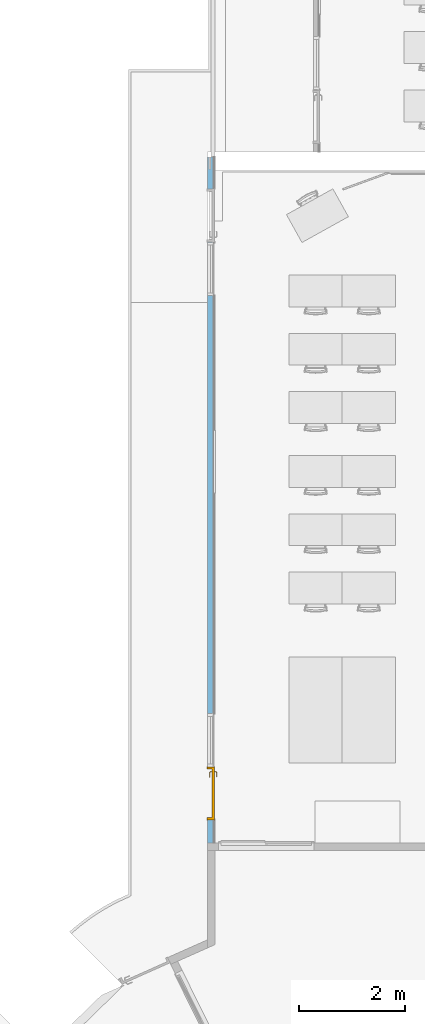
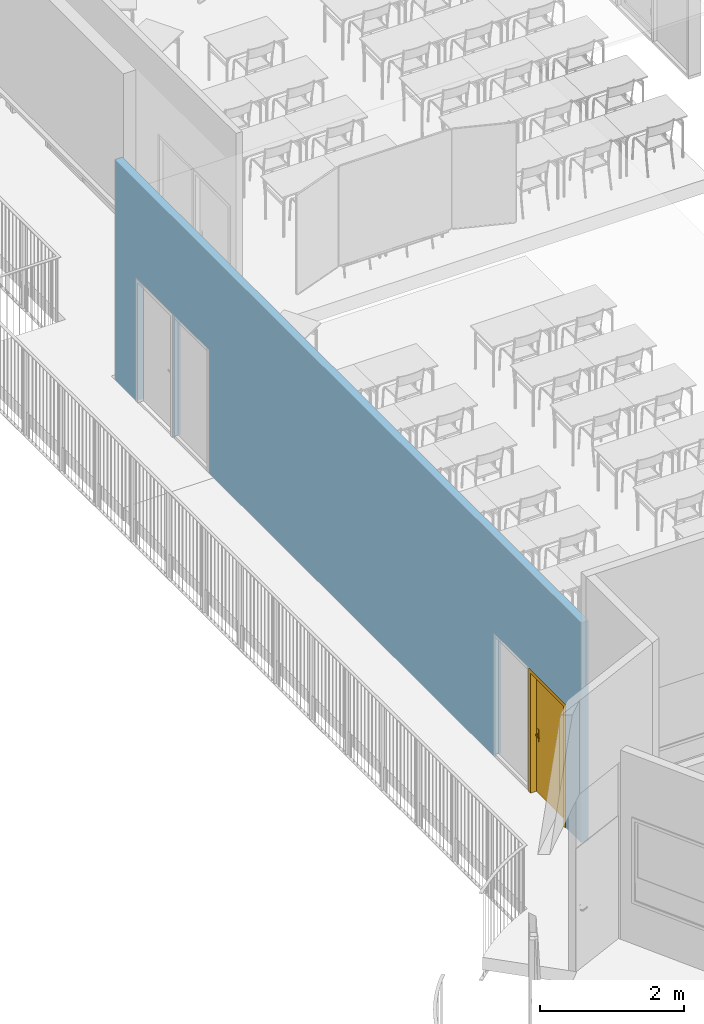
# One storey, part 38 of 44: 1 door, 4 openings, plus 1 element that does not belong to this part.
"""IFC2X3 building model written with IfcOpenShell, lengths in centimetres."""

from ifc_helpers import new_model, entity, si_unit, converted_unit, derived_unit, direction, frame, frame_2d, origin, place, context, subcontext, project, spatial, rectangle, extrude, faceted_brep, source, transform, mapped, material, material_list, layer, layer_set, layer_usage, type_object, type_shapes, element, fill, save


model = new_model("IFC2X3")

# Units and contexts
model_context = context("Model", 3, precision=0.001, world=origin(), true_north=direction((6.12303176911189e-17, 1.0)))
body_context = subcontext(model_context, "Body", "Model", "MODEL_VIEW")
ifc_project = project(units=[si_unit("LENGTHUNIT", "METRE", prefix="CENTI"), si_unit("AREAUNIT", "SQUARE_METRE"), si_unit("VOLUMEUNIT", "CUBIC_METRE"), converted_unit("PLANEANGLEUNIT", "DEGREE", entity("IfcRatioMeasure", 0.0174532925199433), si_unit("PLANEANGLEUNIT", "RADIAN"), dimensions=[0, 0, 0, 0, 0, 0, 0]), si_unit("MASSUNIT", "GRAM", prefix="KILO"), si_unit("TIMEUNIT", "SECOND"), si_unit("FREQUENCYUNIT", "HERTZ"), si_unit("THERMODYNAMICTEMPERATUREUNIT", "DEGREE_CELSIUS"), derived_unit("THERMALTRANSMITTANCEUNIT", [(si_unit("MASSUNIT", "GRAM", prefix="KILO"), 1), (si_unit("THERMODYNAMICTEMPERATUREUNIT", "KELVIN"), -1), (si_unit("TIMEUNIT", "SECOND"), -3)]), derived_unit("VOLUMETRICFLOWRATEUNIT", [(si_unit("LENGTHUNIT", "METRE"), 3), (si_unit("TIMEUNIT", "SECOND"), -1)]), si_unit("ELECTRICCURRENTUNIT", "AMPERE"), si_unit("ELECTRICVOLTAGEUNIT", "VOLT"), si_unit("POWERUNIT", "WATT"), si_unit("FORCEUNIT", "NEWTON", prefix="KILO"), si_unit("ILLUMINANCEUNIT", "LUX"), si_unit("LUMINOUSFLUXUNIT", "LUMEN"), si_unit("LUMINOUSINTENSITYUNIT", "CANDELA"), derived_unit("USERDEFINED", [(si_unit("MASSUNIT", "GRAM", prefix="KILO"), -1), (si_unit("LENGTHUNIT", "METRE"), -2), (si_unit("TIMEUNIT", "SECOND"), 3), (si_unit("LUMINOUSFLUXUNIT", "LUMEN"), 1)]), derived_unit("LINEARVELOCITYUNIT", [(si_unit("LENGTHUNIT", "METRE"), 1), (si_unit("TIMEUNIT", "SECOND"), -1)]), si_unit("PRESSUREUNIT", "PASCAL"), derived_unit("USERDEFINED", [(si_unit("LENGTHUNIT", "METRE"), -2), (si_unit("MASSUNIT", "GRAM", prefix="KILO"), 1), (si_unit("TIMEUNIT", "SECOND"), -2)])], contexts=[model_context])

# Site, building, storey
site_placement = place(None, frame((8.62739174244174, -249.285249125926, 0.0)))
site = spatial("IfcSite", under=ifc_project, at=site_placement, Name="Default", CompositionType="ELEMENT")
building_placement = place(site_placement, origin())
building = spatial("IfcBuilding", under=site, at=building_placement, CompositionType="ELEMENT")
storey_placement = place(building_placement, frame((0.0, 0.0, 343.0)))
storey = spatial("IfcBuildingStorey", under=building, at=storey_placement, Name="R+1", CompositionType="ELEMENT", Elevation=343.0)

# Wall, openings, door
ifc_material_1 = material(Name="Plâtre")
ifc_layer = layer(ifc_material_1, 12.0)
ifc_layer_set = layer_set([ifc_layer], Name="Mur de base:PLA 12")
ifc_layer_usage = layer_usage(ifc_layer_set, "AXIS2", "NEGATIVE", 6.0)
wall_type = type_object("IfcWallType", Name="Mur de base:PLA 12", PredefinedType="STANDARD", material=ifc_layer_set)
wall_placement = place(storey_placement, frame((3025.98509457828, 2644.98020806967, 0.0), z_axis=(0.0, 0.0, 1.0), x_axis=(0.0, -1.0, 0.0)))
wall = element("IfcWallStandardCase", 1, at=wall_placement, inside=storey, type_object=wall_type, material=ifc_layer_usage, Name="Mur de base:PLA 12", ObjectType="Mur de base:PLA 12", context=body_context, shape_type="SweptSolid", body=[
    extrude(rectangle(XDim=1292.00039446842, YDim=11.9999999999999, at=frame_2d((646.000197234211, -8.43769498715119e-15), x_axis=(-1.0, 0.0))), origin(), (0.0, 0.0, 1.0), 372.0),
])
opening_1_placement = place(wall_placement, origin())
element("IfcOpeningElement", 2, at=opening_1_placement, cuts=wall, Name="Mur de base:PLA 12", ObjectType="Opening", context=body_context, shape_type="SweptSolid", body=[
    extrude(rectangle(XDim=208.499999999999, YDim=100.0, at=frame_2d((-2.16715534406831e-13, 0.0), x_axis=(0.0, 1.0))), frame((210.999706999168, -21.2400000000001, 104.25), z_axis=(0.0, 1.0, 0.0), x_axis=(-1.0, 0.0, 0.0)), (0.0, 0.0, 1.0), 42.4799999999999),
])
opening_2_placement = place(wall_placement, origin())
element("IfcOpeningElement", 3, at=opening_2_placement, cuts=wall, Name="Mur de base:PLA 12", ObjectType="Opening", context=body_context, shape_type="SweptSolid", body=[
    extrude(rectangle(XDim=208.499999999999, YDim=100.0, at=frame_2d((0.0, 0.0), x_axis=(0.0, 1.0))), frame((1098.68238229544, -21.2399999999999, 104.25), z_axis=(0.0, 1.0, 0.0), x_axis=(-1.0, 0.0, 0.0)), (0.0, 0.0, 1.0), 42.4799999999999),
])
opening_3_placement = place(wall_placement, frame((60.0, -6.0, 0.0)))
element("IfcOpeningElement", 4, at=opening_3_placement, cuts=wall, Name="Simple(R)_bois_mu:93 x 204 cm:1", ObjectType="Opening", context=body_context, shape_type="SweptSolid", body=[
    extrude(rectangle(XDim=207.499999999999, YDim=99.9999999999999, at=frame_2d((103.749999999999, 50.0), x_axis=(1.0, 0.0))), frame((0.0, 0.0, 0.0), z_axis=(0.0, 1.0, 0.0), x_axis=(0.0, 0.0, 1.0)), (0.0, 0.0, 1.0), 12.0),
])
opening_4_placement = place(wall_placement, frame((1148.68238229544, -6.0, 0.0)))
opening_4 = element("IfcOpeningElement", 5, at=opening_4_placement, cuts=wall, Name="Simple(R)_bois_mu:93 x 204 cm:1", ObjectType="Opening", context=body_context, shape_type="SweptSolid", body=[
    extrude(rectangle(XDim=207.499999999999, YDim=99.9999999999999, at=frame_2d((103.749999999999, 50.0), x_axis=(1.0, 0.0))), frame((0.0, 0.0, 0.0), z_axis=(0.0, 1.0, 0.0), x_axis=(0.0, 0.0, 1.0)), (0.0, 0.0, 1.0), 12.0),
])
ifc_material_2 = material(Name="Porte - Poignée")
ifc_material_3 = material(Name="Porte - Cadre")
ifc_material_4 = material(Name="Porte - Panneau")
ifc_material_list_1 = material_list([ifc_material_2, ifc_material_3, ifc_material_4])
ifc_material_list_2 = material_list([ifc_material_2, ifc_material_3, ifc_material_4])
door_style = type_object("IfcDoorStyle", Name="93 x 204 cm", ConstructionType="NOTDEFINED", OperationType="SINGLE_SWING_LEFT", ParameterTakesPrecedence=False, Sizeable=False, material=ifc_material_list_2)
shared_shape = source(origin(), body_context, "Body", "Brep", [
    faceted_brep([(92.2025298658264, 3.69999999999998, 100.778044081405), (91.7974701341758, 3.69999999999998, 100.778044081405), (91.3999999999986, 3.69999999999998, 100.699999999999), (91.4000000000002, 3.69999999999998, 99.3000000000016), (91.7974701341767, 3.69999999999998, 99.2219559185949), (92.2025298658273, 3.69999999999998, 99.2219559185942), (92.6000000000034, 3.69999999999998, 99.2999999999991), (92.600000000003, 3.69999999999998, 100.699999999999), (91.3999999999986, 5.94852045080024, 100.699999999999), (91.3999999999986, 5.94852045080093, 99.3000000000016), (91.7974701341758, 6.1131579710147, 100.778044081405), (92.2025298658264, 6.2809392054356, 100.778044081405), (90.5838906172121, 7.89957845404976, 100.778044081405), (90.4161093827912, 7.49451872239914, 100.778044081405), (82.0793122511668, 7.49451872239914, 100.778044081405), (81.911531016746, 7.89957845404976, 100.778044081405), (81.1451046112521, 7.13315204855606, 100.778044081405), (81.4315250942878, 6.84673156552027, 100.778044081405), (92.600000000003, 6.44557672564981, 100.699999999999), (92.6000000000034, 6.44557672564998, 99.2999999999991), (92.2025298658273, 6.28093920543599, 99.2219559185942), (91.7974701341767, 6.11315797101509, 99.2219559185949), (90.4161093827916, 7.49451872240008, 99.2219559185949), (90.5838906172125, 7.8995784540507, 99.2219559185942), (81.9115310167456, 7.8995784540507, 99.2219559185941), (82.0793122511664, 7.49451872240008, 99.2219559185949), (81.4315250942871, 6.84673156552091, 99.2219559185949), (81.1451046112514, 7.13315204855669, 99.2219559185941), (90.2514718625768, 7.09704858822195, 100.699999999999), (90.2514718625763, 7.09704858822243, 99.3000000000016), (90.7485281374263, 8.29704858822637, 100.699999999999), (90.7485281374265, 8.29704858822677, 99.2999999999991), (86.247710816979, 7.09704858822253, 100.699999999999), (82.2439497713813, 7.09704858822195, 100.699999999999), (82.2439497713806, 7.09704858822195, 99.3000000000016), (86.247710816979, 7.09704858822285, 99.3000000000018), (86.2477108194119, 7.71249275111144, 100.787811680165), (85.7399422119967, 8.29704858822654, 100.699999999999), (81.7468934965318, 8.29704858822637, 100.699999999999), (86.7554791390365, 8.29704858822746, 99.2999999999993), (81.7468934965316, 8.29704858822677, 99.2999999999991), (86.2477107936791, 7.71249274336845, 99.2121883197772), (80.8640507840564, 7.41420587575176, 100.699999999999), (80.8640507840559, 7.41420587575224, 99.2999999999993), (81.7125789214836, 6.5656777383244, 99.3000000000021), (81.7125789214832, 6.56567773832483, 100.699999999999)], [[[0, 1, 2, 3, 4, 5, 6, 7]], [[8, 9, 3, 2]], [[1, 10, 8, 2]], [[1, 0, 11, 12, 13, 10]], [[14, 15, 16, 17]], [[7, 18, 11, 0]], [[18, 7, 6, 19]], [[6, 5, 20, 19]], [[5, 4, 21, 22, 23, 20]], [[24, 25, 26, 27]], [[4, 3, 9, 21]], [[28, 29, 9, 8]], [[8, 10, 13, 28]], [[18, 30, 12, 11]], [[31, 30, 18, 19]], [[19, 20, 23, 31]], [[21, 9, 29, 22]], [[29, 28, 32, 33, 34, 35]], [[36, 32, 13]], [[37, 38, 15]], [[37, 12, 30]], [[36, 12, 37]], [[14, 32, 36]], [[36, 15, 14]], [[28, 13, 32]], [[32, 14, 33]], [[12, 36, 13]], [[15, 36, 37]], [[30, 31, 39, 40, 38, 37]], [[23, 41, 39]], [[24, 39, 41]], [[39, 31, 23]], [[39, 24, 40]], [[22, 35, 41]], [[41, 23, 22]], [[41, 35, 25]], [[35, 22, 29]], [[34, 25, 35]], [[24, 41, 25]], [[17, 16, 42, 43, 27, 26, 44, 45]], [[45, 44, 34, 33]], [[33, 14, 17, 45]], [[15, 38, 42, 16]], [[43, 42, 38, 40]], [[24, 27, 43, 40]], [[34, 44, 26, 25]]]),
    faceted_brep([(91.7974701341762, -1.30000000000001, 100.778044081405), (92.2025298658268, -1.30000000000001, 100.778044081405), (92.6000000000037, -1.30000000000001, 100.699999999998), (92.6000000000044, -1.30000000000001, 99.2999999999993), (92.2025298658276, -1.30000000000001, 99.2219559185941), (91.797470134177, -1.30000000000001, 99.2219559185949), (91.3999999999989, -1.30000000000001, 99.3000000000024), (91.3999999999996, -1.30000000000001, 100.699999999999), (92.2025298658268, -3.90045754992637, 100.778044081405), (92.6000000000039, -4.06509507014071, 100.699999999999), (91.7974701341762, -3.73267631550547, 100.778044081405), (90.4298602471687, -5.10028620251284, 100.778044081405), (90.5976414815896, -5.50534593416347, 100.778044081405), (81.9142453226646, -5.50534593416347, 100.778044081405), (82.0820265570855, -5.10028620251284, 100.778044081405), (81.4342394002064, -4.4524990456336, 100.778044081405), (81.1478189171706, -4.73891952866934, 100.778044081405), (91.3999999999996, -3.56803879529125, 100.699999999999), (91.3999999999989, -3.56803879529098, 99.3000000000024), (91.797470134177, -3.7326763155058, 99.2219559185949), (92.2025298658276, -3.9004575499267, 99.2219559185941), (90.5976414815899, -5.50534593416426, 99.2219559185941), (90.429860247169, -5.10028620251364, 99.2219559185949), (82.0820265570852, -5.10028620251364, 99.2219559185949), (81.9142453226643, -5.50534593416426, 99.2219559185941), (81.14781891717, -4.73891952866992, 99.2219559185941), (81.4342394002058, -4.45249904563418, 99.2219559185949), (92.6000000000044, -4.06509507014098, 99.2999999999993), (90.762279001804, -5.90281606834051, 100.699999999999), (90.2652227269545, -4.70281606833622, 100.699999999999), (90.2652227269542, -4.70281606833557, 99.3000000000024), (90.7622790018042, -5.90281606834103, 99.2999999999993), (86.2559433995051, -5.31828027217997, 100.787811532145), (86.769230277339, -5.90281606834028, 100.699999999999), (81.7496078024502, -5.90281606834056, 100.699999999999), (86.255943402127, -4.70281606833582, 100.699999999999), (82.2466640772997, -4.70281606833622, 100.699999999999), (86.2559436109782, -4.70281606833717, 99.3000000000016), (82.2466640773, -4.70281606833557, 99.3000000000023), (86.2559434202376, -5.31828027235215, 99.2121884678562), (85.7426572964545, -5.90281606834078, 99.2999999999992), (81.74960780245, -5.90281606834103, 99.2999999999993), (81.7152932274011, -4.17144521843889, 99.3000000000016), (80.8667650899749, -5.01997335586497, 99.2999999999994), (80.8667650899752, -5.01997335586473, 100.699999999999), (81.7152932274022, -4.17144521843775, 100.699999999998)], [[[0, 1, 2, 3, 4, 5, 6, 7]], [[2, 1, 8, 9]], [[1, 0, 10, 11, 12, 8]], [[13, 14, 15, 16]], [[0, 7, 17, 10]], [[18, 17, 7, 6]], [[5, 19, 18, 6]], [[5, 4, 20, 21, 22, 19]], [[23, 24, 25, 26]], [[3, 27, 20, 4]], [[9, 27, 3, 2]], [[9, 8, 12, 28]], [[10, 17, 29, 11]], [[30, 29, 17, 18]], [[18, 19, 22, 30]], [[20, 27, 31, 21]], [[28, 31, 27, 9]], [[12, 32, 33]], [[13, 33, 32]], [[33, 28, 12]], [[33, 13, 34]], [[11, 35, 32]], [[32, 12, 11]], [[32, 35, 14]], [[35, 11, 29]], [[36, 14, 35]], [[13, 32, 14]], [[29, 30, 37, 38, 36, 35]], [[39, 37, 22]], [[40, 41, 24]], [[40, 21, 31]], [[39, 21, 40]], [[23, 37, 39]], [[39, 24, 23]], [[30, 22, 37]], [[37, 23, 38]], [[21, 39, 22]], [[24, 39, 40]], [[31, 28, 33, 34, 41, 40]], [[42, 26, 25, 43, 44, 16, 15, 45]], [[13, 16, 44, 34]], [[36, 45, 15, 14]], [[42, 45, 36, 38]], [[38, 23, 26, 42]], [[24, 41, 43, 25]], [[44, 43, 41, 34]]]),
    faceted_brep([(92.0, 3.19999999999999, 86.4641016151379), (93.0352761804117, 3.19999999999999, 86.6003983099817), (94.0, 3.19999999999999, 87.0), (94.0, 3.19999999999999, 108.0), (93.0352761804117, 3.19999999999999, 108.399601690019), (92.0, 3.19999999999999, 108.535898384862), (90.9647238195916, 3.19999999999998, 108.399601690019), (90.0, 3.19999999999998, 108.0), (90.0, 3.19999999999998, 87.0), (90.9647238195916, 3.19999999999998, 86.6003983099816), (92.0, 3.69999999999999, 108.535898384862), (93.0352761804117, 3.69999999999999, 108.399601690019), (94.0, 3.69999999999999, 108.0), (94.0, 3.69999999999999, 87.0), (93.0352761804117, 3.69999999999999, 86.6003983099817), (92.0, 3.69999999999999, 86.4641016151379), (90.9647238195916, 3.69999999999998, 86.6003983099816), (90.0, 3.69999999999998, 87.0), (90.0, 3.69999999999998, 108.0), (90.9647238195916, 3.69999999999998, 108.399601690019)], [[[0, 1, 2, 3, 4, 5, 6, 7, 8, 9]], [[10, 11, 12, 13, 14, 15, 16, 17, 18, 19]], [[6, 19, 18, 7]], [[5, 10, 19, 6]], [[4, 11, 10, 5]], [[4, 3, 12, 11]], [[12, 3, 2, 13]], [[1, 14, 13, 2]], [[0, 15, 14, 1]], [[9, 16, 15, 0]], [[9, 8, 17, 16]], [[17, 8, 7, 18]]]),
    faceted_brep([(92.0, -1.30000000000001, 86.4641016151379), (93.0352761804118, -1.30000000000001, 86.6003983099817), (94.0, -1.30000000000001, 87.0), (94.0, -1.30000000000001, 108.0), (93.0352761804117, -1.30000000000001, 108.399601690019), (92.0, -1.30000000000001, 108.535898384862), (90.9647238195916, -1.30000000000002, 108.399601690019), (90.0, -1.30000000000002, 108.0), (90.0, -1.30000000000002, 87.0), (90.9647238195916, -1.30000000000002, 86.6003983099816), (94.0, -0.800000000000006, 108.0), (94.0, -0.800000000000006, 87.0), (93.0352761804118, -0.800000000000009, 86.6003983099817), (92.0, -0.800000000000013, 86.4641016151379), (90.9647238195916, -0.800000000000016, 86.6003983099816), (90.0, -0.800000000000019, 87.0), (90.0, -0.800000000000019, 108.0), (90.9647238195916, -0.800000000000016, 108.399601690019), (92.0, -0.800000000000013, 108.535898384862), (93.0352761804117, -0.800000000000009, 108.399601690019)], [[[0, 1, 2, 3, 4, 5, 6, 7, 8, 9]], [[10, 11, 12, 13, 14, 15, 16, 17, 18, 19]], [[1, 12, 11, 2]], [[0, 13, 12, 1]], [[9, 14, 13, 0]], [[9, 8, 15, 14]], [[15, 8, 7, 16]], [[6, 17, 16, 7]], [[5, 18, 17, 6]], [[4, 19, 18, 5]], [[4, 3, 10, 19]], [[10, 3, 2, 11]]]),
    faceted_brep([(101.0, 0.0, 0.0), (102.0, 0.0, 0.0), (102.0, -0.799999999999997, 0.0), (97.5000000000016, -0.799999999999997, 0.0), (97.5000000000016, 3.2, 0.0), (96.5000000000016, 3.2, 0.0), (96.5000000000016, 12.8000000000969, 0.0), (102.0, 12.8000000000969, 0.0), (102.0, 12.0, 0.0), (101.0, 12.0, 0.0), (101.0, 12.0, 207.499999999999), (101.0, 0.0, 207.499999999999), (102.0, 12.0, 208.499999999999), (0.0, 12.0, 208.499999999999), (0.0, 12.0, 0.0), (1.0, 12.0, 0.0), (1.0, 12.0, 207.499999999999), (102.0, 12.8000000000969, 208.499999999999), (96.5000000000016, 12.8000000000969, 203.0), (5.50000000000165, 12.8000000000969, 203.0), (5.50000000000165, 12.8000000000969, 0.0), (0.0, 12.8000000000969, 0.0), (0.0, 12.8000000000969, 208.499999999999), (96.5000000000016, 3.2, 203.0), (97.5000000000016, 3.2, 204.0), (4.50000000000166, 3.2, 204.0), (4.50000000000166, 3.2, 0.0), (5.50000000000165, 3.2, 0.0), (5.50000000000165, 3.2, 203.0), (97.5000000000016, -0.799999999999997, 204.0), (102.0, -0.799999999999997, 208.499999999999), (0.0, -0.799999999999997, 208.499999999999), (0.0, -0.799999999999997, 0.0), (4.50000000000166, -0.799999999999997, 0.0), (4.50000000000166, -0.799999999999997, 204.0), (102.0, 0.0, 208.499999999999), (1.0, 0.0, 207.499999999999), (1.0, 0.0, 0.0), (0.0, 0.0, 0.0), (0.0, 0.0, 208.499999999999)], [[[0, 1, 2, 3, 4, 5, 6, 7, 8, 9]], [[9, 10, 11, 0]], [[8, 12, 13, 14, 15, 16, 10, 9]], [[7, 17, 12, 8]], [[6, 18, 19, 20, 21, 22, 17, 7]], [[5, 23, 18, 6]], [[4, 24, 25, 26, 27, 28, 23, 5]], [[3, 29, 24, 4]], [[2, 30, 31, 32, 33, 34, 29, 3]], [[1, 35, 30, 2]], [[0, 11, 36, 37, 38, 39, 35, 1]], [[16, 15, 37, 36]], [[37, 15, 14, 21, 20, 27, 26, 33, 32, 38]], [[22, 21, 14, 13]], [[28, 27, 20, 19]], [[34, 33, 26, 25]], [[39, 38, 32, 31]], [[10, 16, 36, 11]], [[17, 22, 13, 12]], [[23, 28, 19, 18]], [[29, 34, 25, 24]], [[35, 39, 31, 30]]]),
    faceted_brep([(97.5000000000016, -0.799999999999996, 204.0), (4.50000000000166, -0.799999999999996, 204.0), (4.50000000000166, -0.799999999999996, 0.0), (97.5000000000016, -0.799999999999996, 0.0), (97.5000000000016, 3.2, 204.0), (97.5000000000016, 3.2, 0.0), (4.50000000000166, 3.2, 0.0), (4.50000000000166, 3.2, 204.0)], [[[0, 1, 2, 3]], [[4, 5, 6, 7]], [[3, 5, 4, 0]], [[2, 6, 5, 3]], [[1, 7, 6, 2]], [[0, 4, 7, 1]]]),
])
type_shapes(door_style, [shared_shape])
door_placement = place(opening_4_placement, frame((101.0, 12.0, 0.0), z_axis=(0.0, 0.0, 1.0), x_axis=(-1.0, 0.0, 0.0)))
door = element("IfcDoor", 6, at=door_placement, inside=storey, type_object=door_style, material=ifc_material_list_1, Name="Simple(R)_bois_mu:93 x 204 cm", ObjectType="93 x 204 cm", OverallHeight=207.499999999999, OverallWidth=100.0, context=body_context, shape_type="MappedRepresentation", body=[
    mapped(shared_shape, transform((0.0, 0.0, 0.0), scale=1.0)),
])
fill(opening_4, door)

save(model, "model.ifc")
